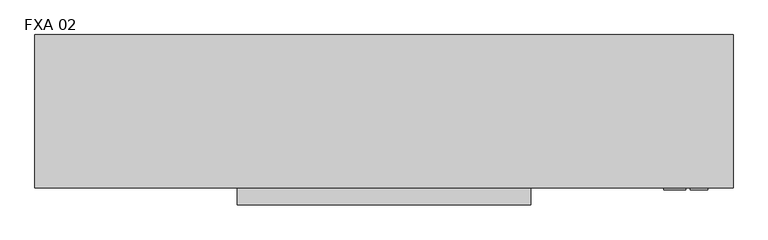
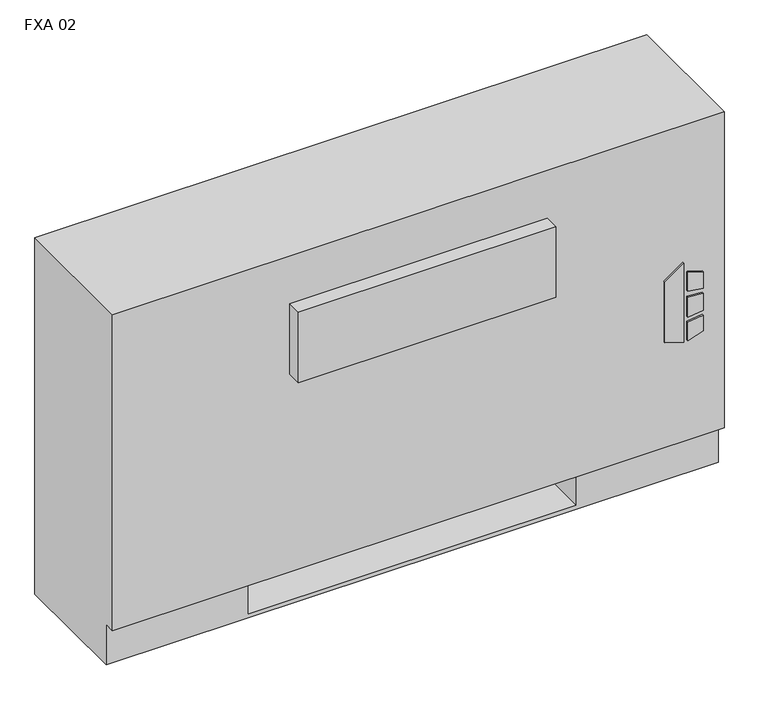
"""IFC4 building model written with IfcOpenShell, lengths in millimetres: proxy geometry, Vertical_Fan_Coil_Unit_-_FXA_-_IEC_-_2-Pipe_FS-FR_LH_2022 : FXA 02."""

from ifc_helpers import new_model, si_unit, point, frame, frame_2d, origin, place, context, project, spatial, polyline, circle_curve, trimmed, segment, composite_curve, outline, extrude, source, transform, mapped, element, save
from ifc_brep_helpers import plane_surface, revolved_surface, advanced_brep


def fxa_02_166d8ca6(model_context):
    return source(origin(), model_context, "Body", "SolidModel", [
        extrude(outline(polyline([(263.9480703, 569.9868862), (254.0, 602.1602728), (396.1709244, 602.1602728), (373.1489183, 569.9868862), (263.9480703, 569.9868862)])), frame((0.0, 12.7, 0.0), z_axis=(0.0, 1.0, 0.0), x_axis=(0.0, 0.0, 1.0)), (0.0, 0.0, 1.0), 3.175),
        extrude(outline(polyline([(342.9473557, 608.9186058), (339.7449632, 635.0), (368.9738042, 635.0), (377.0382193, 608.9186058), (342.9473557, 608.9186058)])), frame((0.0, 12.7, 0.0), z_axis=(0.0, 1.0, 0.0), x_axis=(0.0, 0.0, 1.0)), (0.0, 0.0, 1.0), 3.175),
        extrude(outline(polyline([(291.0838288, 635.0), (287.4183279, 608.9186058), (254.0, 608.9186058), (262.6342372, 635.0), (291.0838288, 635.0)])), frame((0.0, 12.7, 0.0), z_axis=(0.0, 1.0, 0.0), x_axis=(0.0, 0.0, 1.0)), (0.0, 0.0, 1.0), 3.175),
        extrude(outline(polyline([(330.3989903, 635.0), (332.6808166, 608.9186058), (296.7432681, 608.9186058), (299.4845331, 635.0), (330.3989903, 635.0)])), frame((0.0, 12.7, 0.0), z_axis=(0.0, 1.0, 0.0), x_axis=(0.0, 0.0, 1.0)), (0.0, 0.0, 1.0), 3.175),
        extrude(outline(polyline([(552.45, 223.266), (552.45, 81.534), (431.8, 81.534), (431.8, 223.266), (552.45, 223.266)])), frame((0.0, 0.0, 327.025), z_axis=(0.0, 0.0, 1.0), x_axis=(1.0, 0.0, 0.0)), (0.0, 0.0, 1.0), 260.35),
        extrude(outline(composite_curve([segment(trimmed(circle_curve(frame_2d((-190.5, 130.175)), 9.525), [point((-200.025, 130.175))], [point((-180.975, 130.175))], False, "CARTESIAN"), True, "CONTINUOUS"), segment(trimmed(circle_curve(frame_2d((-190.5, 130.175)), 9.525), [point((-180.975, 130.175))], [point((-200.025, 130.175))], False, "CARTESIAN"), True, "CONTINUOUS")], self_intersect=False)), frame((0.0, 0.0, 101.6), z_axis=(0.0, 0.0, 1.0), x_axis=(1.0, 0.0, 0.0)), (0.0, 0.0, 1.0), 25.4),
        extrude(outline(polyline([(-292.1, 63.5), (-292.1, 196.85), (-127.0, 196.85), (-127.0, 63.5), (-292.1, 63.5)])), frame((0.0, 0.0, 127.0), z_axis=(0.0, 0.0, 1.0), x_axis=(1.0, 0.0, 0.0)), (0.0, 0.0, 1.0), 50.8),
        extrude(outline(polyline([(371.475, -9.525), (-66.675, -9.525), (-66.675, 15.875), (371.475, 15.875), (371.475, -9.525)])), frame((0.0, 0.0, 428.625), z_axis=(0.0, 0.0, 1.0), x_axis=(1.0, 0.0, 0.0)), (0.0, 0.0, 1.0), 127.0),
        extrude(outline(composite_curve([segment(trimmed(circle_curve(frame_2d((93.1926, 485.5972)), 7.9375), [point((93.1926, 493.5347))], [point((93.1926, 477.6597))], False, "CARTESIAN"), True, "CONTINUOUS"), segment(trimmed(circle_curve(frame_2d((93.1926, 485.5972)), 7.9375), [point((93.1926, 477.6597))], [point((93.1926, 493.5347))], False, "CARTESIAN"), True, "CONTINUOUS")], self_intersect=False)), frame((-177.8, 0.0, 0.0), z_axis=(1.0, 0.0, 0.0), x_axis=(0.0, 1.0, 0.0)), (0.0, 0.0, 1.0), 50.8),
        extrude(outline(composite_curve([segment(trimmed(circle_curve(frame_2d((141.3002, 458.9526)), 7.9375), [point((141.3002, 466.8901))], [point((141.3002, 451.0151))], False, "CARTESIAN"), True, "CONTINUOUS"), segment(trimmed(circle_curve(frame_2d((141.3002, 458.9526)), 7.9375), [point((141.3002, 451.0151))], [point((141.3002, 466.8901))], False, "CARTESIAN"), True, "CONTINUOUS")], self_intersect=False)), frame((-177.8, 0.0, 0.0), z_axis=(1.0, 0.0, 0.0), x_axis=(0.0, 1.0, 0.0)), (0.0, 0.0, 1.0), 50.8),
        advanced_brep(
        [(673.1, 244.475, 641.35), (-368.3, 244.475, 641.35), (-368.3, 15.875, 641.35), (673.1, 15.875, 641.35), (-368.3, 244.475, 0.0), (673.1, 244.475, 0.0), (673.1, 34.925, 0.0), (-368.3, 34.925, 0.0), (431.8, 244.475, 73.025), (660.4, 244.475, 73.025), (660.4, 244.475, 628.65), (431.8, 244.475, 628.65), (431.8, 244.475, 414.8650565), (460.375, 244.475, 414.8650565), (460.375, 244.475, 385.2349435), (431.8, 244.475, 385.2349435), (431.8, 244.475, 287.3375), (460.375, 244.475, 287.3375), (460.375, 244.475, 258.7625), (431.8, 244.475, 258.7625), (431.8, 244.475, 141.2875), (460.375, 244.475, 141.2875), (460.375, 244.475, 112.7125), (431.8, 244.475, 112.7125), (-127.0, 244.475, 628.65), (-355.6, 244.475, 628.65), (-355.6, 244.475, 73.025), (-127.0, 244.475, 73.025), (-127.0, 244.475, 112.7125), (-155.575, 244.475, 112.7125), (-155.575, 244.475, 141.2875), (-127.0, 244.475, 141.2875), (-127.0, 244.475, 258.7625), (-155.575, 244.475, 258.7625), (-155.575, 244.475, 287.3375), (-127.0, 244.475, 287.3375), (-127.0, 244.475, 385.2349435), (-155.575, 244.475, 385.2349435), (-155.575, 244.475, 414.8650565), (-127.0, 244.475, 414.8650565), (450.0626, 244.475, 127.0), (438.9374, 244.475, 127.0), (450.0626, 244.475, 400.05), (438.9374, 244.475, 400.05), (450.0626, 244.475, 273.05), (438.9374, 244.475, 273.05), (-134.1374, 244.475, 127.0), (-145.2626, 244.475, 127.0), (-134.1374, 244.475, 273.05), (-145.2626, 244.475, 273.05), (-134.1374, 244.475, 400.05), (-145.2626, 244.475, 400.05), (-368.3, 34.925, 73.025), (-368.3, 15.875, 73.025), (673.1, 15.875, 73.025), (673.1, 34.925, 73.025), (-127.0, 34.925, 73.025), (-127.0, 219.075, 73.025), (431.8, 219.075, 73.025), (431.8, 34.925, 73.025), (431.8, 34.925, 6.35), (-127.0, 34.925, 6.35), (431.8, 41.275, 628.65), (660.4, 41.275, 628.65), (660.4, 41.275, 73.025), (431.8, 41.275, 73.025), (-127.0, 41.275, 628.65), (-127.0, 41.275, 73.025), (-355.6, 41.275, 73.025), (-355.6, 41.275, 628.65), (431.8, 219.075, 73.025), (431.8, 238.125, 112.7125), (431.8, 238.125, 141.2875), (431.8, 238.125, 258.7625), (431.8, 238.125, 287.3375), (431.8, 238.125, 385.2349435), (431.8, 238.125, 414.8650565), (-127.0, 219.075, 73.025), (-127.0, 238.125, 414.8650565), (-127.0, 238.125, 385.2349435), (-127.0, 238.125, 287.3375), (-127.0, 238.125, 258.7625), (-127.0, 238.125, 141.2875), (-127.0, 238.125, 112.7125), (-127.0, 219.075, 6.35), (431.8, 219.075, 6.35), (460.375, 238.125, 112.7125), (460.375, 238.125, 141.2875), (438.9374, 238.125, 127.0), (450.0626, 238.125, 127.0), (460.375, 238.125, 258.7625), (460.375, 238.125, 287.3375), (438.9374, 238.125, 273.05), (450.0626, 238.125, 273.05), (460.375, 238.125, 385.2349435), (460.375, 238.125, 414.8650565), (438.9374, 238.125, 400.05), (450.0626, 238.125, 400.05), (-155.575, 238.125, 141.2875), (-155.575, 238.125, 112.7125), (-145.2626, 238.125, 127.0), (-134.1374, 238.125, 127.0), (-155.575, 238.125, 287.3375), (-155.575, 238.125, 258.7625), (-145.2626, 238.125, 273.05), (-134.1374, 238.125, 273.05), (-155.575, 238.125, 414.8650565), (-155.575, 238.125, 385.2349435), (-145.2626, 238.125, 400.05), (-134.1374, 238.125, 400.05)],
        [
            (0, 1),
            (1, 2),
            (2, 3),
            (3, 0),
            (4, 5),
            (5, 6),
            (6, 7),
            (7, 4),
            (0, 5),
            (4, 1),
            (8, 9),
            (9, 10),
            (10, 11),
            (11, 12),
            (12, 13),
            (13, 14),
            (14, 15),
            (15, 16),
            (16, 17),
            (17, 18),
            (18, 19),
            (19, 20),
            (20, 21),
            (21, 22),
            (22, 23),
            (23, 8),
            (24, 25),
            (25, 26),
            (26, 27),
            (27, 28),
            (28, 29),
            (29, 30),
            (30, 31),
            (31, 32),
            (32, 33),
            (33, 34),
            (34, 35),
            (35, 36),
            (36, 37),
            (37, 38),
            (38, 39),
            (39, 24),
            (40, 41, circle_curve(frame((444.5, 244.475, 127.0), z_axis=(0.0, -1.0, 0.0), x_axis=(-1.0, 0.0, 0.0)), 5.5626)),
            (41, 40, circle_curve(frame((444.5, 244.475, 127.0), z_axis=(0.0, -1.0, 0.0), x_axis=(-1.0, 0.0, 0.0)), 5.5626)),
            (42, 43, circle_curve(frame((444.5, 244.475, 400.05), z_axis=(0.0, -1.0, 0.0), x_axis=(-1.0, 0.0, 0.0)), 5.5626)),
            (43, 42, circle_curve(frame((444.5, 244.475, 400.05), z_axis=(0.0, -1.0, 0.0), x_axis=(-1.0, 0.0, 0.0)), 5.5626)),
            (44, 45, circle_curve(frame((444.5, 244.475, 273.05), z_axis=(0.0, -1.0, 0.0), x_axis=(-1.0, 0.0, 0.0)), 5.5626)),
            (45, 44, circle_curve(frame((444.5, 244.475, 273.05), z_axis=(0.0, -1.0, 0.0), x_axis=(-1.0, 0.0, 0.0)), 5.5626)),
            (46, 47, circle_curve(frame((-139.7, 244.475, 127.0), z_axis=(0.0, -1.0, 0.0), x_axis=(-1.0, 0.0, 0.0)), 5.5626)),
            (47, 46, circle_curve(frame((-139.7, 244.475, 127.0), z_axis=(0.0, -1.0, 0.0), x_axis=(-1.0, 0.0, 0.0)), 5.5626)),
            (48, 49, circle_curve(frame((-139.7, 244.475, 273.05), z_axis=(0.0, -1.0, 0.0), x_axis=(-1.0, 0.0, 0.0)), 5.5626)),
            (49, 48, circle_curve(frame((-139.7, 244.475, 273.05), z_axis=(0.0, -1.0, 0.0), x_axis=(-1.0, 0.0, 0.0)), 5.5626)),
            (50, 51, circle_curve(frame((-139.7, 244.475, 400.05), z_axis=(0.0, -1.0, 0.0), x_axis=(-1.0, 0.0, 0.0)), 5.5626)),
            (51, 50, circle_curve(frame((-139.7, 244.475, 400.05), z_axis=(0.0, -1.0, 0.0), x_axis=(-1.0, 0.0, 0.0)), 5.5626)),
            (7, 52),
            (52, 53),
            (53, 2),
            (53, 54),
            (54, 3),
            (54, 55),
            (55, 6),
            (52, 56),
            (56, 57),
            (57, 58),
            (58, 59),
            (59, 55),
            (59, 60),
            (60, 61),
            (61, 56),
            (62, 63),
            (63, 64),
            (64, 65),
            (65, 62),
            (66, 67),
            (67, 68),
            (68, 69),
            (69, 66),
            (65, 70),
            (70, 8),
            (23, 71),
            (71, 72),
            (72, 20),
            (19, 73),
            (73, 74),
            (74, 16),
            (15, 75),
            (75, 76),
            (76, 12),
            (11, 62),
            (64, 9),
            (63, 10),
            (69, 25),
            (24, 66),
            (68, 26),
            (67, 77),
            (77, 27),
            (39, 78),
            (78, 79),
            (79, 36),
            (35, 80),
            (80, 81),
            (81, 32),
            (31, 82),
            (82, 83),
            (83, 28),
            (57, 84),
            (84, 85),
            (85, 58),
            (85, 60),
            (84, 61),
            (71, 86),
            (86, 87),
            (87, 72),
            (88, 89, circle_curve(frame((444.5, 238.125, 127.0), z_axis=(0.0, 1.0, 0.0), x_axis=(-1.0, 0.0, 0.0)), 5.5626)),
            (89, 88, circle_curve(frame((444.5, 238.125, 127.0), z_axis=(0.0, 1.0, 0.0), x_axis=(-1.0, 0.0, 0.0)), 5.5626)),
            (73, 90),
            (90, 91),
            (91, 74),
            (92, 93, circle_curve(frame((444.5, 238.125, 273.05), z_axis=(0.0, 1.0, 0.0), x_axis=(-1.0, 0.0, 0.0)), 5.5626)),
            (93, 92, circle_curve(frame((444.5, 238.125, 273.05), z_axis=(0.0, 1.0, 0.0), x_axis=(-1.0, 0.0, 0.0)), 5.5626)),
            (75, 94),
            (94, 95),
            (95, 76),
            (96, 97, circle_curve(frame((444.5, 238.125, 400.05), z_axis=(0.0, 1.0, 0.0), x_axis=(-1.0, 0.0, 0.0)), 5.5626)),
            (97, 96, circle_curve(frame((444.5, 238.125, 400.05), z_axis=(0.0, 1.0, 0.0), x_axis=(-1.0, 0.0, 0.0)), 5.5626)),
            (98, 99),
            (99, 83),
            (82, 98),
            (100, 101, circle_curve(frame((-139.7, 238.125, 127.0), z_axis=(0.0, 1.0, 0.0), x_axis=(-1.0, 0.0, 0.0)), 5.5626)),
            (101, 100, circle_curve(frame((-139.7, 238.125, 127.0), z_axis=(0.0, 1.0, 0.0), x_axis=(-1.0, 0.0, 0.0)), 5.5626)),
            (102, 103),
            (103, 81),
            (80, 102),
            (104, 105, circle_curve(frame((-139.7, 238.125, 273.05), z_axis=(0.0, 1.0, 0.0), x_axis=(-1.0, 0.0, 0.0)), 5.5626)),
            (105, 104, circle_curve(frame((-139.7, 238.125, 273.05), z_axis=(0.0, 1.0, 0.0), x_axis=(-1.0, 0.0, 0.0)), 5.5626)),
            (106, 107),
            (107, 79),
            (78, 106),
            (108, 109, circle_curve(frame((-139.7, 238.125, 400.05), z_axis=(0.0, 1.0, 0.0), x_axis=(-1.0, 0.0, 0.0)), 5.5626)),
            (109, 108, circle_curve(frame((-139.7, 238.125, 400.05), z_axis=(0.0, 1.0, 0.0), x_axis=(-1.0, 0.0, 0.0)), 5.5626)),
            (87, 21),
            (86, 22),
            (91, 17),
            (90, 18),
            (95, 13),
            (94, 14),
            (30, 98),
            (99, 29),
            (34, 102),
            (103, 33),
            (38, 106),
            (107, 37),
            (88, 41),
            (40, 89),
            (96, 43),
            (42, 97),
            (92, 45),
            (44, 93),
            (100, 47),
            (46, 101),
            (104, 49),
            (48, 105),
            (108, 51),
            (50, 109),
        ],
        [
            plane_surface(frame((-368.3, 244.475, 641.35), z_axis=(0.0, 0.0, 1.0), x_axis=(-1.0, 0.0, 0.0))),
            plane_surface(frame((-368.3, 244.475, 0.0), z_axis=(0.0, 0.0, -1.0), x_axis=(1.0, 0.0, 0.0))),
            plane_surface(frame((673.1, 244.475, 641.35), z_axis=(0.0, 1.0, 0.0), x_axis=(0.0, 0.0, -1.0))),
            plane_surface(frame((-368.3, 244.475, 641.35), z_axis=(-1.0, 0.0, 0.0), x_axis=(0.0, 0.0, -1.0))),
            plane_surface(frame((-368.3, 15.875, 641.35), z_axis=(0.0, -1.0, 0.0), x_axis=(0.0, 0.0, -1.0))),
            plane_surface(frame((673.1, 15.875, 641.35), z_axis=(1.0, 0.0, 0.0), x_axis=(0.0, 0.0, -1.0))),
            plane_surface(frame((-368.3, 15.875, 73.025), z_axis=(0.0, 0.0, -1.0), x_axis=(1.0, 0.0, 0.0))),
            plane_surface(frame((-368.3, 34.925, 73.025), z_axis=(0.0, -1.0, 0.0), x_axis=(1.0, 0.0, 0.0))),
            plane_surface(frame((431.8, 41.275, 628.65), z_axis=(0.0, 1.0, 0.0), x_axis=(0.0, 0.0, -1.0))),
            plane_surface(frame((431.8, 41.275, 628.65), z_axis=(1.0, 0.0, 0.0), x_axis=(0.0, 1.0, 0.0))),
            plane_surface(frame((431.8, 41.275, 73.025), z_axis=(0.0, 0.0, 1.0), x_axis=(0.0, 1.0, 0.0))),
            plane_surface(frame((660.4, 41.275, 73.025), z_axis=(-1.0, 0.0, 0.0), x_axis=(0.0, 1.0, 0.0))),
            plane_surface(frame((660.4, 41.275, 628.65), z_axis=(0.0, 0.0, -1.0), x_axis=(0.0, 1.0, 0.0))),
            plane_surface(frame((-127.0, 41.275, 628.65), z_axis=(0.0, 0.0, -1.0), x_axis=(0.0, 1.0, 0.0))),
            plane_surface(frame((-355.6, 41.275, 628.65), z_axis=(1.0, 0.0, 0.0), x_axis=(0.0, 1.0, 0.0))),
            plane_surface(frame((-355.6, 41.275, 73.025), z_axis=(0.0, 0.0, 1.0), x_axis=(0.0, 1.0, 0.0))),
            plane_surface(frame((-127.0, 41.275, 73.025), z_axis=(-1.0, 0.0, 0.0), x_axis=(0.0, 1.0, 0.0))),
            plane_surface(frame((431.8, 219.075, 73.025), z_axis=(0.0, -1.0, 0.0), x_axis=(0.0, 0.0, -1.0))),
            plane_surface(frame((431.8, 219.075, 73.025), z_axis=(-1.0, 0.0, 0.0), x_axis=(0.0, -1.0, 0.0))),
            plane_surface(frame((431.8, 219.075, 6.35), z_axis=(0.0, 0.0, 1.0), x_axis=(0.0, -1.0, 0.0))),
            plane_surface(frame((-127.0, 219.075, 6.35), z_axis=(1.0, 0.0, 0.0), x_axis=(0.0, -1.0, 0.0))),
            plane_surface(frame((460.375, 238.125, 141.2875), z_axis=(0.0, -1.0, 0.0), x_axis=(-1.0, 0.0, 0.0))),
            plane_surface(frame((431.8, 244.475, 141.2875), z_axis=(0.0, 0.0, 1.0), x_axis=(0.0, -1.0, 0.0))),
            plane_surface(frame((460.375, 244.475, 141.2875), z_axis=(1.0, 0.0, 0.0), x_axis=(0.0, -1.0, 0.0))),
            plane_surface(frame((460.375, 244.475, 112.7125), z_axis=(0.0, 0.0, -1.0), x_axis=(0.0, -1.0, 0.0))),
            plane_surface(frame((431.8, 244.475, 287.3375), z_axis=(0.0, 0.0, 1.0), x_axis=(0.0, -1.0, 0.0))),
            plane_surface(frame((460.375, 244.475, 287.3375), z_axis=(1.0, 0.0, 0.0), x_axis=(0.0, -1.0, 0.0))),
            plane_surface(frame((460.375, 244.475, 258.7625), z_axis=(0.0, 0.0, -1.0), x_axis=(0.0, -1.0, 0.0))),
            plane_surface(frame((431.8, 244.475, 414.8650565), z_axis=(0.0, 0.0, 1.0), x_axis=(0.0, -1.0, 0.0))),
            plane_surface(frame((460.375, 244.475, 414.8650565), z_axis=(1.0, 0.0, 0.0), x_axis=(0.0, -1.0, 0.0))),
            plane_surface(frame((460.375, 244.475, 385.2349435), z_axis=(0.0, 0.0, -1.0), x_axis=(0.0, -1.0, 0.0))),
            plane_surface(frame((-155.575, 244.475, 141.2875), z_axis=(0.0, 0.0, 1.0), x_axis=(0.0, -1.0, 0.0))),
            plane_surface(frame((-127.0, 244.475, 112.7125), z_axis=(0.0, 0.0, -1.0), x_axis=(0.0, -1.0, 0.0))),
            plane_surface(frame((-155.575, 244.475, 112.7125), z_axis=(-1.0, 0.0, 0.0), x_axis=(0.0, -1.0, 0.0))),
            plane_surface(frame((-155.575, 244.475, 287.3375), z_axis=(0.0, 0.0, 1.0), x_axis=(0.0, -1.0, 0.0))),
            plane_surface(frame((-127.0, 244.475, 258.7625), z_axis=(0.0, 0.0, -1.0), x_axis=(0.0, -1.0, 0.0))),
            plane_surface(frame((-155.575, 244.475, 258.7625), z_axis=(-1.0, 0.0, 0.0), x_axis=(0.0, -1.0, 0.0))),
            plane_surface(frame((-155.575, 244.475, 414.8650565), z_axis=(0.0, 0.0, 1.0), x_axis=(0.0, -1.0, 0.0))),
            plane_surface(frame((-127.0, 244.475, 385.2349435), z_axis=(0.0, 0.0, -1.0), x_axis=(0.0, -1.0, 0.0))),
            plane_surface(frame((-155.575, 244.475, 385.2349435), z_axis=(-1.0, 0.0, 0.0), x_axis=(0.0, -1.0, 0.0))),
            revolved_surface(polyline([(438.9374, 238.125, 127.0), (438.9374, 244.475, 127.0)]), (444.5, 244.475, 127.0), (0.0, -1.0, 0.0)),
            revolved_surface(polyline([(438.9374, 238.125, 400.05), (438.9374, 244.475, 400.05)]), (444.5, 244.475, 400.05), (0.0, -1.0, 0.0)),
            revolved_surface(polyline([(438.9374, 238.125, 273.05), (438.9374, 244.475, 273.05)]), (444.5, 244.475, 273.05), (0.0, -1.0, 0.0)),
            revolved_surface(polyline([(-145.2626, 238.125, 127.0), (-145.2626, 244.475, 127.0)]), (-139.7, 244.475, 127.0), (0.0, -1.0, 0.0)),
            revolved_surface(polyline([(-145.2626, 238.125, 273.05), (-145.2626, 244.475, 273.05)]), (-139.7, 244.475, 273.05), (0.0, -1.0, 0.0)),
            revolved_surface(polyline([(-145.2626, 238.125, 400.05), (-145.2626, 244.475, 400.05)]), (-139.7, 244.475, 400.05), (0.0, -1.0, 0.0)),
        ],
        [
            (0, [[1, 2, 3, 4]]),
            (1, [[5, 6, 7, 8]]),
            (2, [[-1, 9, -5, 10], [11, 12, 13, 14, 15, 16, 17, 18, 19, 20, 21, 22, 23, 24, 25, 26], [27, 28, 29, 30, 31, 32, 33, 34, 35, 36, 37, 38, 39, 40, 41, 42], [43, 44], [45, 46], [47, 48], [49, 50], [51, 52], [53, 54]]),
            (3, [[-2, -10, -8, 55, 56, 57]]),
            (4, [[-3, -57, 58, 59]]),
            (5, [[-4, -59, 60, 61, -6, -9]]),
            (6, [[-56, 62, 63, 64, 65, 66, -60, -58]]),
            (7, [[-7, -61, -66, 67, 68, 69, -62, -55]]),
            (8, [[70, 71, 72, 73]]),
            (8, [[74, 75, 76, 77]]),
            (9, [[-73, 78, 79, -26, 80, 81, 82, -22, 83, 84, 85, -18, 86, 87, 88, -14, 89]]),
            (10, [[-72, 90, -11, -79, -78]]),
            (11, [[-71, 91, -12, -90]]),
            (12, [[-70, -89, -13, -91]]),
            (13, [[-77, 92, -27, 93]]),
            (14, [[-76, 94, -28, -92]]),
            (15, [[-75, 95, 96, -29, -94]]),
            (16, [[-74, -93, -42, 97, 98, 99, -38, 100, 101, 102, -34, 103, 104, 105, -30, -96, -95]]),
            (17, [[-64, 106, 107, 108]]),
            (18, [[-108, 109, -67, -65]]),
            (19, [[-107, 110, -68, -109]]),
            (20, [[-106, -63, -69, -110]]),
            (21, [[111, 112, 113, -81], [114, 115]]),
            (21, [[116, 117, 118, -84], [119, 120]]),
            (21, [[121, 122, 123, -87], [124, 125]]),
            (21, [[126, 127, -104, 128], [129, 130]]),
            (21, [[131, 132, -101, 133], [134, 135]]),
            (21, [[136, 137, -98, 138], [139, 140]]),
            (22, [[-113, 141, -23, -82]]),
            (23, [[-112, 142, -24, -141]]),
            (24, [[-111, -80, -25, -142]]),
            (25, [[-118, 143, -19, -85]]),
            (26, [[-117, 144, -20, -143]]),
            (27, [[-116, -83, -21, -144]]),
            (28, [[-123, 145, -15, -88]]),
            (29, [[-122, 146, -16, -145]]),
            (30, [[-121, -86, -17, -146]]),
            (31, [[-128, -103, -33, 147]]),
            (32, [[-127, 148, -31, -105]]),
            (33, [[-126, -147, -32, -148]]),
            (34, [[-133, -100, -37, 149]]),
            (35, [[-132, 150, -35, -102]]),
            (36, [[-131, -149, -36, -150]]),
            (37, [[-138, -97, -41, 151]]),
            (38, [[-137, 152, -39, -99]]),
            (39, [[-136, -151, -40, -152]]),
            (40, [[153, -43, 154, -114]]),
            (40, [[-153, -115, -154, -44]]),
            (41, [[155, -45, 156, -124]]),
            (41, [[-155, -125, -156, -46]]),
            (42, [[157, -47, 158, -119]]),
            (42, [[-157, -120, -158, -48]]),
            (43, [[159, -49, 160, -129]]),
            (43, [[-159, -130, -160, -50]]),
            (44, [[161, -51, 162, -134]]),
            (44, [[-161, -135, -162, -52]]),
            (45, [[163, -53, 164, -139]]),
            (45, [[-163, -140, -164, -54]]),
        ],
    ),
    ])


if __name__ == "__main__":
    model = new_model("IFC4")
    model_context = context("Model", 3, world=origin())
    ifc_project = project(units=[si_unit("LENGTHUNIT", "METRE", prefix="MILLI")], contexts=[model_context])
    site = spatial("IfcSite", under=ifc_project)
    building = spatial("IfcBuilding", under=site)
    placement = place(None, origin())
    fxa_02_shape = fxa_02_166d8ca6(model_context)
    element("IfcBuildingElementProxy", 1, Name="Vertical_Fan_Coil_Unit_-_FXA_-_IEC_-_2-Pipe_FS-FR_LH_2022 : FXA 02", ObjectType="Vertical_Fan_Coil_Unit_-_FXA_-_IEC_-_2-Pipe_FS-FR_LH_2022 : FXA 02", at=placement, inside=building, context=model_context, shape_type="MappedRepresentation", body=[
        mapped(fxa_02_shape, transform((0.0, 0.0, 0.0), x_axis=(1.0, 0.0, 0.0), y_axis=(0.0, 1.0, 0.0), z_axis=(0.0, 0.0, 1.0))),
    ])
    save(model, "model.ifc")
